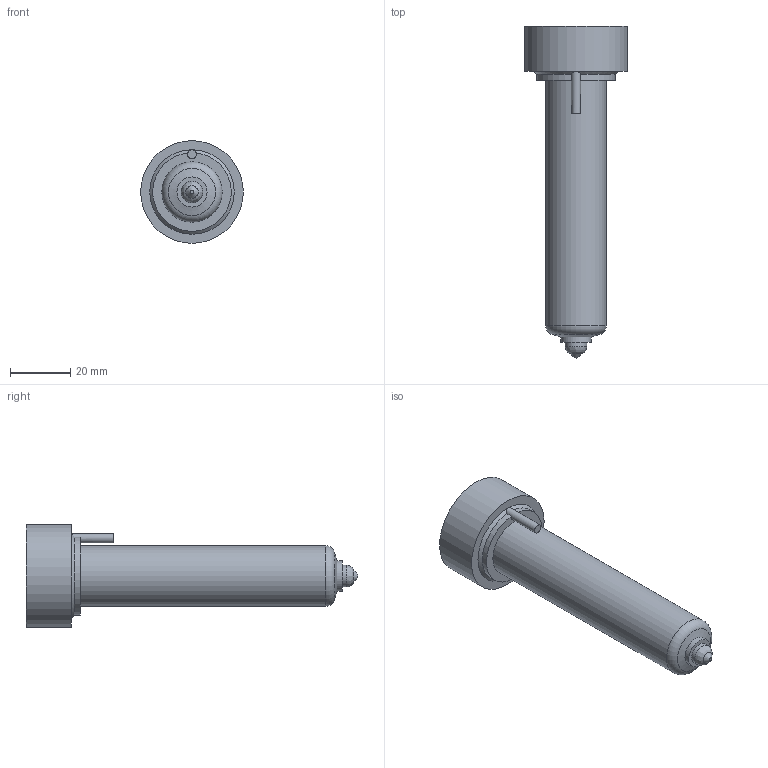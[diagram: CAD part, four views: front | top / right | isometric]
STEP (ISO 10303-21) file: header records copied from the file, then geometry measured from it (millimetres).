
FILE_DESCRIPTION(('STEP AP214'),'1');
FILE_NAME('//Server-yudoeu/YUDO-EU/Production YUDO EU/CAD-Gen/Blocos/Blocos 2D/Ficheiros 3D/YUEN/YEM12CS100/YEM12CS110_1.2_cut-out.step','2010-07-09T10:40:55',(' '),(' '),'Spatial InterOp 3D',' ',' ');
FILE_SCHEMA(('automotive_design'));
Length unit declared in the file: millimetre
Products named in the file (1): nozzlearea
Bounding box: 34 x 110 x 34 mm (x, y, z)
Volume: 42086.9 mm3; surface area: 9066.2 mm2
Topology: 1 solids, 1 shells, 17 faces, 31 edges, 19 vertices
Faces by surface type: cylinder 6, plane 6, cone 3, bspline 1, torus 1
Full cylindrical faces by diameter (mm): 3 x1, 7.2 x1, 10 x1, 20 x1, 34 x1
Entity records: 551 total; most frequent: CARTESIAN_POINT 104, DIRECTION 68, ORIENTED_EDGE 40, AXIS2_PLACEMENT_3D 33, EDGE_LOOP 29, FACE_OUTER_BOUND 24, EDGE_CURVE 20, STYLED_ITEM 17
